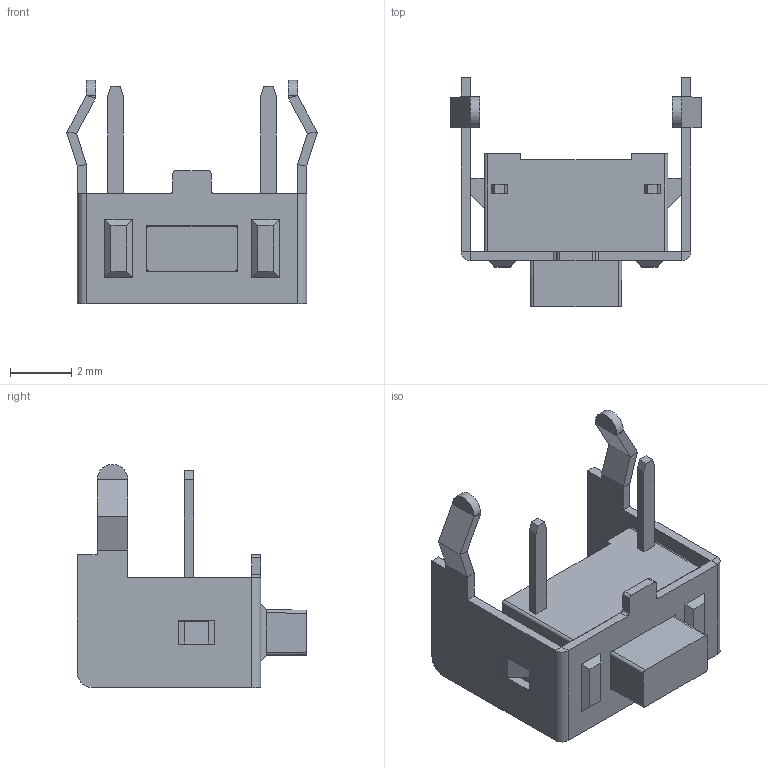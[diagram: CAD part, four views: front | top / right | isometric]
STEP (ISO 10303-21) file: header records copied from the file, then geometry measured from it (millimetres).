
FILE_DESCRIPTION((''),'2;1');
FILE_NAME('JQC3560-B0503-G-104_ASM','2026-04-13T16:18:53',('Admin'),(''),'CREO PARAMETRIC BY PTC INC, 2019224','CREO PARAMETRIC BY PTC INC, 2019224','');
FILE_SCHEMA(('AUTOMOTIVE_DESIGN { 1 0 10303 214 1 1 1 1 }'));
Length unit declared in the file: millimetre
Products named in the file (3): JQC3560-B0503-G-104_01; JQC3560-B0503-G-104_02; JQC3560-B0503-G-104_ASM
Assembly tree (2 placements, depth 2):
  JQC3560-B0503-G-104_ASM
    JQC3560-B0503-G-104_01
    JQC3560-B0503-G-104_02
Bounding box: 8.2 x 7.5 x 7.3 mm (x, y, z)
Volume: 98.2 mm3; surface area: 305.9 mm2
Topology: 2 solids, 2 shells, 156 faces, 390 edges, 252 vertices
Faces by surface type: plane 138, cylinder 18
Entity records: 5678 total; most frequent: CARTESIAN_POINT 838, ORIENTED_EDGE 752, DIRECTION 744, EDGE_CURVE 376, VECTOR 350, LINE 350, PRESENTATION_STYLE_ASSIGNMENT 245, VERTEX_POINT 236
